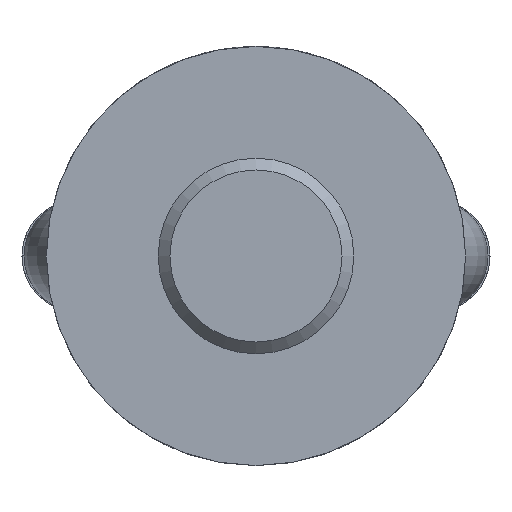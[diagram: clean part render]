
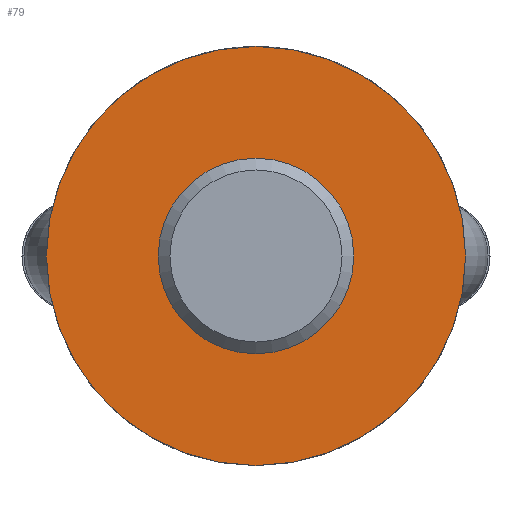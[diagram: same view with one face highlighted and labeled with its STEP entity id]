
A CAD part, front view. The second image highlights one B-rep face of the part: STEP entity #79.
In plain terms, the highlighted planar face has unit normal (0, -1, 0).
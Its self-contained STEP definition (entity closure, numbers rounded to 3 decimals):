
#79 = ADVANCED_FACE( '', ( #115, #116 ), #117, .F. );
#115 = FACE_BOUND( '', #183, .T. );
#116 = FACE_OUTER_BOUND( '', #184, .T. );
#117 = PLANE( '', #185 );
#183 = EDGE_LOOP( '', ( #282 ) );
#184 = EDGE_LOOP( '', ( #283 ) );
#185 = AXIS2_PLACEMENT_3D( '', #284, #285, #286 );
#282 = ORIENTED_EDGE( '', *, *, #454, .T. );
#283 = ORIENTED_EDGE( '', *, *, #455, .T. );
#284 = CARTESIAN_POINT( '', ( 60., 0., 0. ) );
#285 = DIRECTION( '', ( 0., 1., 0. ) );
#286 = DIRECTION( '', ( 0., 0., 1. ) );
#454 = EDGE_CURVE( '', #532, #532, #533, .T. );
#455 = EDGE_CURVE( '', #534, #534, #535, .T. );
#532 = VERTEX_POINT( '', #1001 );
#533 = CIRCLE( '', #1002, 28. );
#534 = VERTEX_POINT( '', #1003 );
#535 = CIRCLE( '', #1004, 60. );
#1001 = CARTESIAN_POINT( '', ( 0., 0., 28. ) );
#1002 = AXIS2_PLACEMENT_3D( '', #1052, #1053, #1054 );
#1003 = CARTESIAN_POINT( '', ( 0., 0., -60. ) );
#1004 = AXIS2_PLACEMENT_3D( '', #1055, #1056, #1057 );
#1052 = CARTESIAN_POINT( '', ( 0., 0., 0. ) );
#1053 = DIRECTION( '', ( 0., 1., 0. ) );
#1054 = DIRECTION( '', ( 0., 0., 1. ) );
#1055 = CARTESIAN_POINT( '', ( 0., 0., 0. ) );
#1056 = DIRECTION( '', ( 0., -1., 0. ) );
#1057 = DIRECTION( '', ( 0., 0., -1. ) );
